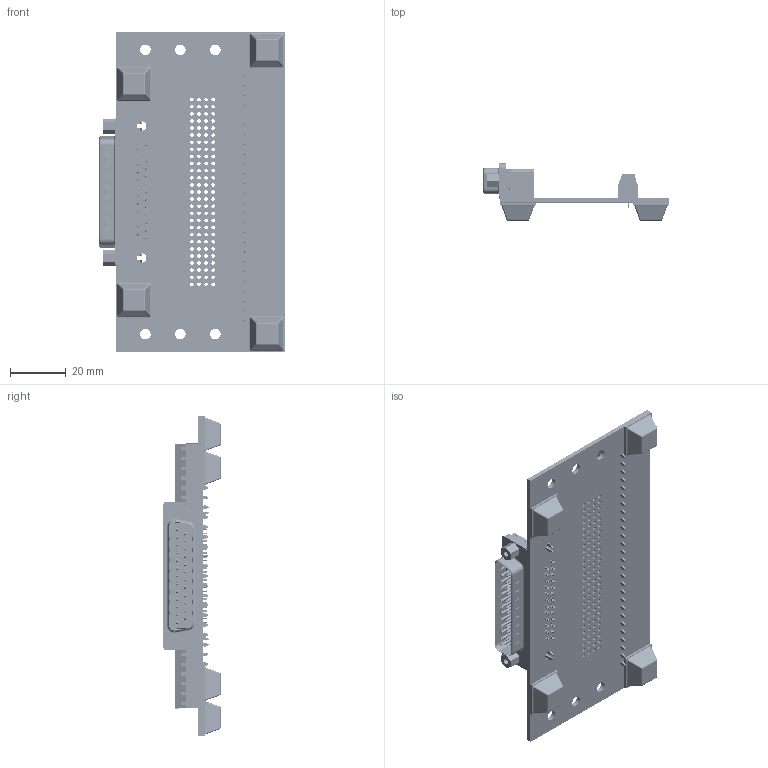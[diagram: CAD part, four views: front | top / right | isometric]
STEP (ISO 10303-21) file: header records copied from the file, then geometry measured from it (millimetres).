
FILE_DESCRIPTION (( 'STEP AP214' ), '1' );
FILE_NAME ('brk25mv2-r-ft_rev_a.step', '2021-06-11T13:32:30', ( '' ), ( '' ), 'SwSTEP 2.0', 'SolidWorks 2018', '' );
FILE_SCHEMA (( 'AUTOMOTIVE_DESIGN' ));
Length unit declared in the file: inch
Products named in the file (5): brk25mv2-r-ft_rev_a; BRK25M Board; Male Right Angle 25 Pin; Square Rubber Feet; Screw Terminal 3
Assembly tree (15 placements, depth 2):
  brk25mv2-r-ft_rev_a
    BRK25M Board
    Male Right Angle 25 Pin
    Screw Terminal 3  x9
    Square Rubber Feet  x4
Bounding box: 66.46 x 20.45 x 114.3 mm (x, y, z)
Volume: 13196.7 mm3; surface area: 34004.4 mm2
Topology: 5 solids, 225 shells, 10677 faces, 27611 edges, 17528 vertices
Faces by surface type: plane 5164, bspline 3221, cylinder 2156, torus 66, cone 54, sphere 16
Entity records: 515354 total; most frequent: CARTESIAN_POINT 220695, ORIENTED_EDGE 43086, DIRECTION 29907, EDGE_CURVE 21662, VERTEX_POINT 13740, VECTOR 12367, LINE 12367, EDGE_LOOP 9204
